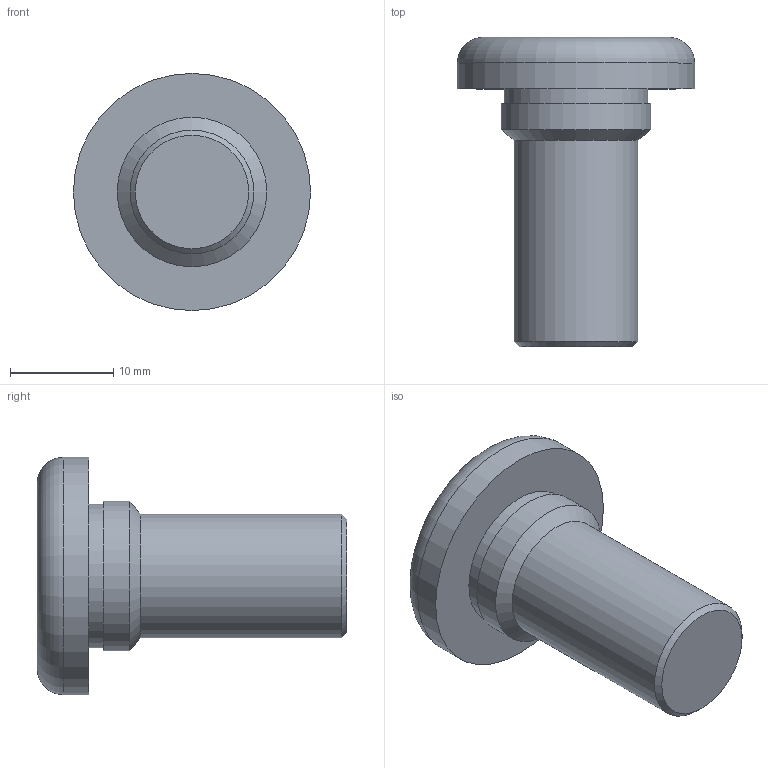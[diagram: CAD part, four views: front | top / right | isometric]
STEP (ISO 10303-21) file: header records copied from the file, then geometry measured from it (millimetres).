
FILE_DESCRIPTION(/* description */ (''),/* implementation_level */ '2;1');
FILE_NAME(/* name */ 'C:\Users\keval.kumar\Desktop\Fastit\Press Screw\M12\Press Screw_M12 x30.stp',/* time_stamp */ '2024-03-12T18:00:51+06:00',/* author */ ('keval.kumar'),/* organization */ (''),/* preprocessor_version */ 'ST-DEVELOPER v18.1',/* originating_system */ 'Autodesk Inventor 2022',/* authorisation */ '');
FILE_SCHEMA (('AUTOMOTIVE_DESIGN { 1 0 10303 214 3 1 1 }'));
Length unit declared in the file: millimetre
Products named in the file (1): Press Screw_M12 x30
Bounding box: 23 x 30 x 23 mm (x, y, z)
Volume: 5021.3 mm3; surface area: 2074.5 mm2
Topology: 1 solids, 1 shells, 11 faces, 19 edges, 12 vertices
Faces by surface type: cylinder 4, plane 4, cone 2, torus 1
Full cylindrical faces by diameter (mm): 12 x1, 13.9 x1, 14.5 x1, 23 x1
Entity records: 313 total; most frequent: DIRECTION 56, CARTESIAN_POINT 43, ORIENTED_EDGE 38, AXIS2_PLACEMENT_3D 25, EDGE_CURVE 19, EDGE_LOOP 13, CIRCLE 13, VERTEX_POINT 12
